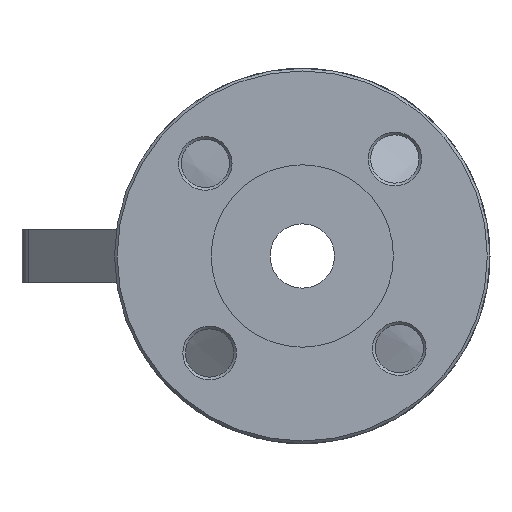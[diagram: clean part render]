
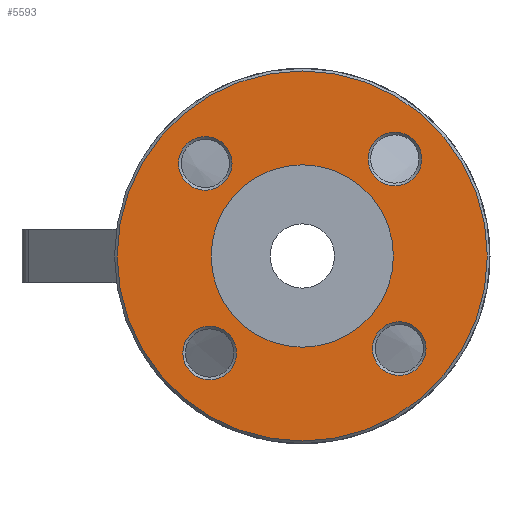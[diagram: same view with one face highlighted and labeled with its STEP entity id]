
A CAD part, left-side view. The second image highlights one B-rep face of the part: STEP entity #5593.
In plain terms, the highlighted planar face has unit normal (-1, 0, 0).
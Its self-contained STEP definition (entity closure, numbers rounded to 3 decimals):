
#5518=CARTESIAN_POINT('',(-108.,46.169,34.522));
#5519=VERTEX_POINT('',#5518);
#5520=CARTESIAN_POINT('',(-108.,36.169,34.522));
#5521=DIRECTION('',(-1.0,0.0,0.0));
#5522=DIRECTION('',(0.0,-1.0,0.0));
#5523=AXIS2_PLACEMENT_3D('',#5520,#5521,#5522);
#5524=CIRCLE('',#5523,10.0);
#5525=EDGE_CURVE('',#5519,#5519,#5524,.T.);
#5530=CARTESIAN_POINT('',(-108.,-51.5,0.0));
#5531=DIRECTION('',(-1.0,0.0,0.0));
#5532=DIRECTION('',(0.0,0.0,1.0));
#5533=AXIS2_PLACEMENT_3D('',#5530,#5531,#5532);
#5534=PLANE('',#5533);
#5535=CARTESIAN_POINT('',(-108.,-69.,0.0));
#5536=VERTEX_POINT('',#5535);
#5537=CARTESIAN_POINT('',(-108.,0.0,0.0));
#5538=DIRECTION('',(-1.0,0.0,0.0));
#5539=DIRECTION('',(0.0,-1.0,0.0));
#5540=AXIS2_PLACEMENT_3D('',#5537,#5538,#5539);
#5541=CIRCLE('',#5540,69.);
#5542=EDGE_CURVE('',#5536,#5536,#5541,.T.);
#5543=ORIENTED_EDGE('',*,*,#5542,.T.);
#5544=EDGE_LOOP('',(#5543));
#5545=FACE_OUTER_BOUND('',#5544,.T.);
#5546=CARTESIAN_POINT('',(-108.,-34.522,46.169));
#5547=VERTEX_POINT('',#5546);
#5548=CARTESIAN_POINT('',(-108.,-34.522,36.169));
#5549=DIRECTION('',(-1.0,0.0,0.0));
#5550=DIRECTION('',(0.0,0.0,-1.0));
#5551=AXIS2_PLACEMENT_3D('',#5548,#5549,#5550);
#5552=CIRCLE('',#5551,10.0);
#5553=EDGE_CURVE('',#5547,#5547,#5552,.T.);
#5554=ORIENTED_EDGE('',*,*,#5553,.F.);
#5555=EDGE_LOOP('',(#5554));
#5556=FACE_BOUND('',#5555,.T.);
#5557=CARTESIAN_POINT('',(-108.,34.522,-46.169));
#5558=VERTEX_POINT('',#5557);
#5559=CARTESIAN_POINT('',(-108.,34.522,-36.169));
#5560=DIRECTION('',(-1.0,0.0,0.0));
#5561=DIRECTION('',(0.0,0.0,1.0));
#5562=AXIS2_PLACEMENT_3D('',#5559,#5560,#5561);
#5563=CIRCLE('',#5562,10.0);
#5564=EDGE_CURVE('',#5558,#5558,#5563,.T.);
#5565=ORIENTED_EDGE('',*,*,#5564,.F.);
#5566=EDGE_LOOP('',(#5565));
#5567=FACE_BOUND('',#5566,.T.);
#5568=CARTESIAN_POINT('',(-108.,-34.0,0.0));
#5569=VERTEX_POINT('',#5568);
#5570=CARTESIAN_POINT('',(-108.,0.0,0.0));
#5571=DIRECTION('',(-1.0,0.0,0.0));
#5572=DIRECTION('',(0.0,-1.0,0.0));
#5573=AXIS2_PLACEMENT_3D('',#5570,#5571,#5572);
#5574=CIRCLE('',#5573,34.0);
#5575=EDGE_CURVE('',#5569,#5569,#5574,.T.);
#5576=ORIENTED_EDGE('',*,*,#5575,.F.);
#5577=EDGE_LOOP('',(#5576));
#5578=FACE_BOUND('',#5577,.T.);
#5579=CARTESIAN_POINT('',(-108.,-46.169,-34.522));
#5580=VERTEX_POINT('',#5579);
#5581=CARTESIAN_POINT('',(-108.,-36.169,-34.522));
#5582=DIRECTION('',(-1.0,0.0,0.0));
#5583=DIRECTION('',(0.0,1.0,0.0));
#5584=AXIS2_PLACEMENT_3D('',#5581,#5582,#5583);
#5585=CIRCLE('',#5584,10.0);
#5586=EDGE_CURVE('',#5580,#5580,#5585,.T.);
#5587=ORIENTED_EDGE('',*,*,#5586,.F.);
#5588=EDGE_LOOP('',(#5587));
#5589=FACE_BOUND('',#5588,.T.);
#5590=ORIENTED_EDGE('',*,*,#5525,.F.);
#5591=EDGE_LOOP('',(#5590));
#5592=FACE_BOUND('',#5591,.T.);
#5593=ADVANCED_FACE('',(#5545,#5556,#5567,#5578,#5589,#5592),#5534,.T.);
